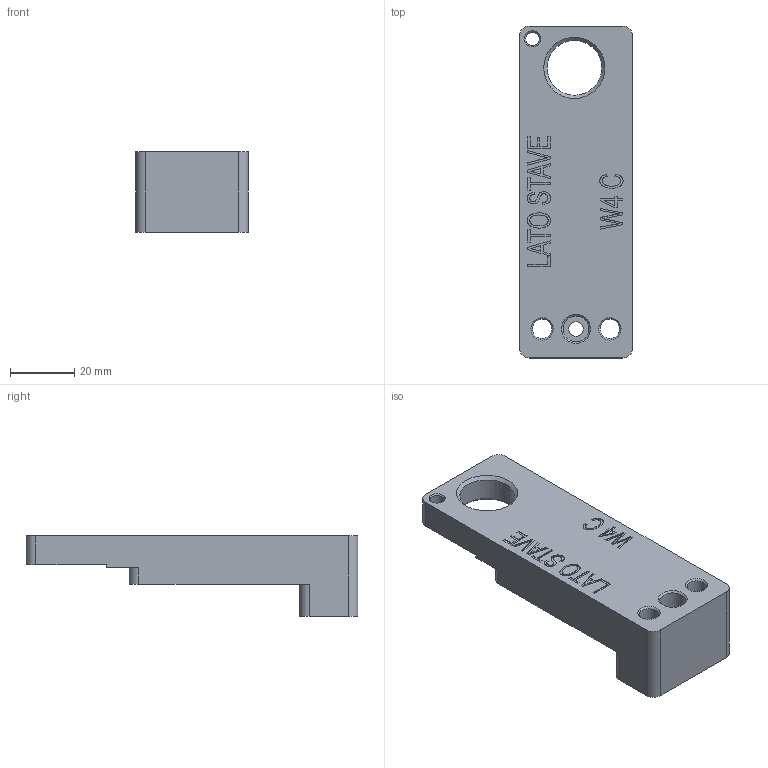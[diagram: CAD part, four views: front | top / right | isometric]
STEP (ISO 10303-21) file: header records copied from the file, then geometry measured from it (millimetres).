
FILE_DESCRIPTION(/* description */ (''),/* implementation_level */ '2;1');
FILE_NAME(/* name */ 'WHEELS-INSERT.15.stp',/* time_stamp */ '2018-09-20T14:44:03+02:00',/* author */ (''),/* organization */ (''),/* preprocessor_version */ 'ST-DEVELOPER v16.7',/* originating_system */ 'SIEMENS PLM Software NX 12.0',/* authorisation */ '');
FILE_SCHEMA (('AUTOMOTIVE_DESIGN { 1 0 10303 214 3 1 1 1 }'));
Length unit declared in the file: millimetre
Products named in the file (1): bez9B988210ctc8
Bounding box: 35 x 103 x 25 mm (x, y, z)
Volume: 49428.1 mm3; surface area: 13208.4 mm2
Topology: 1 solids, 1 shells, 157 faces, 407 edges, 269 vertices
Faces by surface type: plane 111, extrusion 22, cylinder 14, cone 10
Full cylindrical faces by diameter (mm): 4.2 x1, 4.5 x1, 6 x2, 8 x1, 17 x1
Entity records: 5392 total; most frequent: CARTESIAN_POINT 1952, ORIENTED_EDGE 776, DIRECTION 512, EDGE_CURVE 388, VERTEX_POINT 266, B_SPLINE_CURVE_WITH_KNOTS 230, EDGE_LOOP 200, AXIS2_PLACEMENT_3D 174
